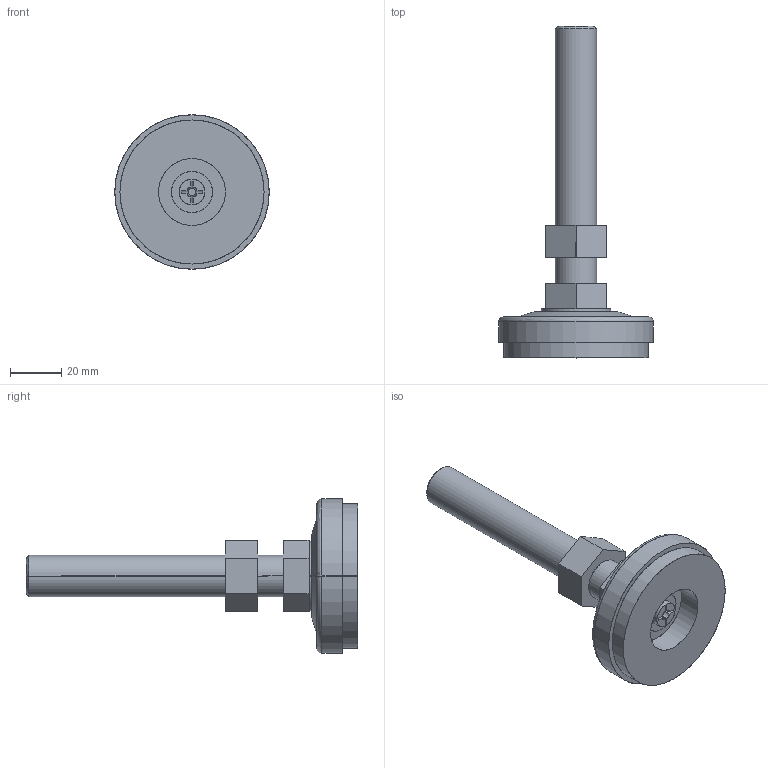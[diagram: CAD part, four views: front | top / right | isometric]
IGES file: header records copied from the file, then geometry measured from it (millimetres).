
Start section: SolidWorks IGES file using analytic representation for surfaces
Bounding box: 60 x 129 x 60 mm (x, y, z)
Surface area: 16379.9 mm2 (no closed solid volume)
Topology: 0 solids, 0 shells, 76 faces, 1130 edges, 1130 vertices
Faces by surface type: bspline 52, revolution 24
